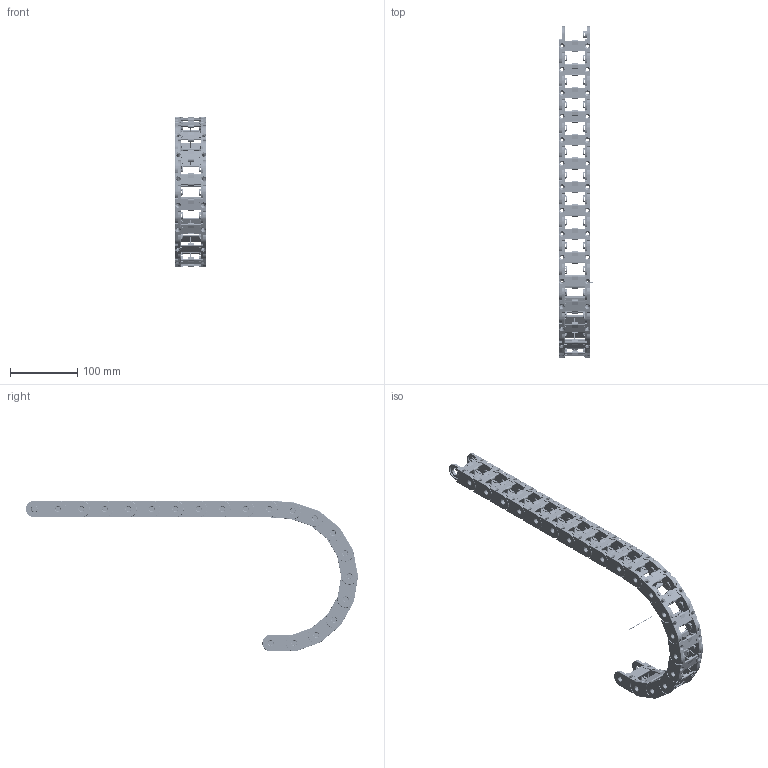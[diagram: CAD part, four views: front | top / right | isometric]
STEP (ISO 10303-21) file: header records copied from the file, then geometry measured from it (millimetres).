
FILE_DESCRIPTION((''),'2;1');
FILE_NAME('C:\Uebbing\TRACE PARTS\PKK 111\PKK 111 vereinfacht PARAMETRISCH.stp','2013-04-19T09:34:26',('Uebbing'),(''),'Autodesk Inventor 10','Autodesk Inventor 10','');
FILE_SCHEMA(('AUTOMOTIVE_DESIGN { 1 0 10303 214 1 1 1 1 }'));
Length unit declared in the file: millimetre
Products named in the file (6): PKK 111 vereinfacht PARAMETRISCH; Achse; PKK 110 Gliedvereinfacht; PKK 110 Laschevereinfacht; PKK 120 Steg X; PKK 120 PZ vereinfacht ANr368
Assembly tree (26 placements, depth 3):
  PKK 111 vereinfacht PARAMETRISCH
    Achse
    PKK 110 Gliedvereinfacht  x20
      PKK 110 Laschevereinfacht
      PKK 120 Steg X
      PKK 120 PZ vereinfacht ANr368
Bounding box: 50 x 494.83 x 225 mm (x, y, z)
Volume: 288959.9 mm3; surface area: 267730.7 mm2
Topology: 101 solids, 101 shells, 4603 faces, 11244 edges, 7043 vertices
Faces by surface type: plane 1602, cylinder 1581, bspline 820, torus 480, cone 80, sphere 40
Full cylindrical faces by diameter (mm): 1 x1, 4.3 x40, 7.2 x40, 10 x40, 10.1 x40, 12.9 x80, 21.4 x80
Entity records: 5933 total; most frequent: CARTESIAN_POINT 2024, DIRECTION 827, ORIENTED_EDGE 728, EDGE_CURVE 364, AXIS2_PLACEMENT_3D 335, VERTEX_POINT 232, EDGE_LOOP 184, FACE_OUTER_BOUND 159
